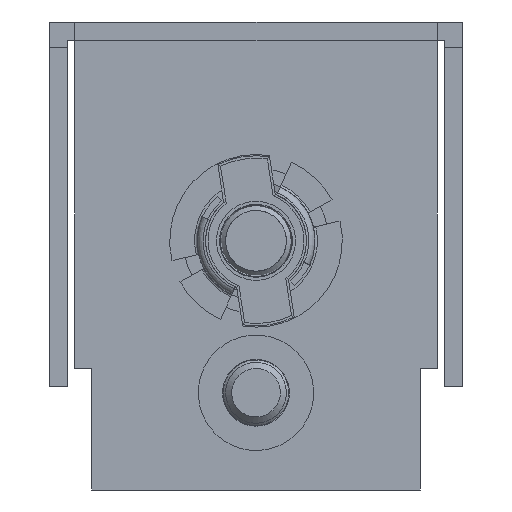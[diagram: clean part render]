
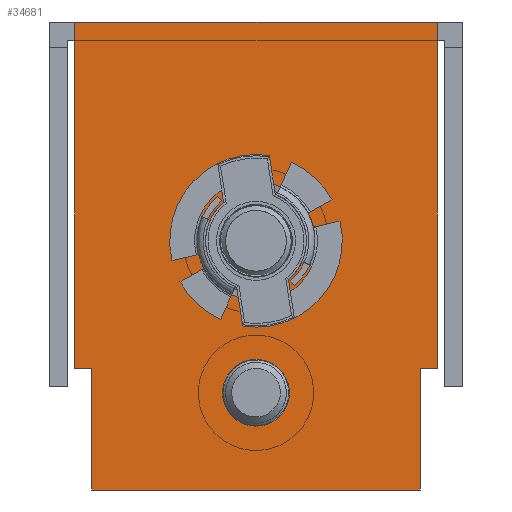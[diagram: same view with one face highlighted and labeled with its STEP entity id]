
A CAD part, left-side view. The second image highlights one B-rep face of the part: STEP entity #34681.
In plain terms, the highlighted planar face has unit normal (-1, 0, 0).
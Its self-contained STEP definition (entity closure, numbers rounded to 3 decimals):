
#2946 = VERTEX_POINT('',#2947);
#2947 = CARTESIAN_POINT('',(-249.,-14.9,1.5));
#3026 = VERTEX_POINT('',#3027);
#3027 = CARTESIAN_POINT('',(-249.,14.9,1.5));
#3033 = EDGE_CURVE('',#3026,#2946,#3034,.T.);
#3034 = LINE('',#3035,#3036);
#3035 = CARTESIAN_POINT('',(-249.,0.,1.5));
#3036 = VECTOR('',#3037,1.);
#3037 = DIRECTION('',(0.,-1.,0.));
#34569 = VERTEX_POINT('',#34570);
#34570 = CARTESIAN_POINT('',(-249.,14.9,-0.6));
#34576 = EDGE_CURVE('',#34569,#3026,#34577,.T.);
#34577 = LINE('',#34578,#34579);
#34578 = CARTESIAN_POINT('',(-249.,14.9,0.));
#34579 = VECTOR('',#34580,1.);
#34580 = DIRECTION('',(0.,-0.,1.));
#34594 = VERTEX_POINT('',#34595);
#34595 = CARTESIAN_POINT('',(-249.,-14.9,-0.6));
#34609 = EDGE_CURVE('',#34594,#2946,#34610,.T.);
#34610 = LINE('',#34611,#34612);
#34611 = CARTESIAN_POINT('',(-249.,-14.9,-0.6));
#34612 = VECTOR('',#34613,1.);
#34613 = DIRECTION('',(0.,0.,1.));
#34632 = VERTEX_POINT('',#34633);
#34633 = CARTESIAN_POINT('',(-249.,14.9,-27.));
#34639 = EDGE_CURVE('',#34569,#34632,#34640,.T.);
#34640 = LINE('',#34641,#34642);
#34641 = CARTESIAN_POINT('',(-249.,14.9,-37.));
#34642 = VECTOR('',#34643,1.);
#34643 = DIRECTION('',(0.,0.,-1.));
#34654 = EDGE_CURVE('',#34655,#34594,#34657,.T.);
#34655 = VERTEX_POINT('',#34656);
#34656 = CARTESIAN_POINT('',(-249.,-14.9,-27.));
#34657 = LINE('',#34658,#34659);
#34658 = CARTESIAN_POINT('',(-249.,-14.9,0.));
#34659 = VECTOR('',#34660,1.);
#34660 = DIRECTION('',(0.,0.,1.));
#34681 = ADVANCED_FACE('',(#34682,#34693,#34704),#34749,.F.);
#34682 = FACE_BOUND('',#34683,.T.);
#34683 = EDGE_LOOP('',(#34684));
#34684 = ORIENTED_EDGE('',*,*,#34685,.T.);
#34685 = EDGE_CURVE('',#34686,#34686,#34688,.T.);
#34686 = VERTEX_POINT('',#34687);
#34687 = CARTESIAN_POINT('',(-249.,0.,-19.75));
#34688 = CIRCLE('',#34689,3.25);
#34689 = AXIS2_PLACEMENT_3D('',#34690,#34691,#34692);
#34690 = CARTESIAN_POINT('',(-249.,0.,-16.5));
#34691 = DIRECTION('',(1.,0.,0.));
#34692 = DIRECTION('',(0.,0.,-1.));
#34693 = FACE_BOUND('',#34694,.T.);
#34694 = EDGE_LOOP('',(#34695));
#34695 = ORIENTED_EDGE('',*,*,#34696,.T.);
#34696 = EDGE_CURVE('',#34697,#34697,#34699,.T.);
#34697 = VERTEX_POINT('',#34698);
#34698 = CARTESIAN_POINT('',(-249.,0.,-31.75));
#34699 = CIRCLE('',#34700,2.75);
#34700 = AXIS2_PLACEMENT_3D('',#34701,#34702,#34703);
#34701 = CARTESIAN_POINT('',(-249.,0.,-29.));
#34702 = DIRECTION('',(1.,0.,0.));
#34703 = DIRECTION('',(0.,0.,-1.));
#34704 = FACE_BOUND('',#34705,.T.);
#34705 = EDGE_LOOP('',(#34706,#34716,#34722,#34723,#34724,#34725,#34726,
    #34727,#34735,#34743));
#34706 = ORIENTED_EDGE('',*,*,#34707,.T.);
#34707 = EDGE_CURVE('',#34708,#34710,#34712,.T.);
#34708 = VERTEX_POINT('',#34709);
#34709 = CARTESIAN_POINT('',(-249.,-13.5,-37.));
#34710 = VERTEX_POINT('',#34711);
#34711 = CARTESIAN_POINT('',(-249.,-13.5,-27.));
#34712 = LINE('',#34713,#34714);
#34713 = CARTESIAN_POINT('',(-249.,-13.5,-37.));
#34714 = VECTOR('',#34715,1.);
#34715 = DIRECTION('',(0.,0.,1.));
#34716 = ORIENTED_EDGE('',*,*,#34717,.T.);
#34717 = EDGE_CURVE('',#34710,#34655,#34718,.T.);
#34718 = LINE('',#34719,#34720);
#34719 = CARTESIAN_POINT('',(-249.,-14.9,-27.));
#34720 = VECTOR('',#34721,1.);
#34721 = DIRECTION('',(-0.,-1.,0.));
#34722 = ORIENTED_EDGE('',*,*,#34654,.T.);
#34723 = ORIENTED_EDGE('',*,*,#34609,.T.);
#34724 = ORIENTED_EDGE('',*,*,#3033,.F.);
#34725 = ORIENTED_EDGE('',*,*,#34576,.F.);
#34726 = ORIENTED_EDGE('',*,*,#34639,.T.);
#34727 = ORIENTED_EDGE('',*,*,#34728,.T.);
#34728 = EDGE_CURVE('',#34632,#34729,#34731,.T.);
#34729 = VERTEX_POINT('',#34730);
#34730 = CARTESIAN_POINT('',(-249.,13.5,-27.));
#34731 = LINE('',#34732,#34733);
#34732 = CARTESIAN_POINT('',(-249.,14.9,-27.));
#34733 = VECTOR('',#34734,1.);
#34734 = DIRECTION('',(0.,-1.,0.));
#34735 = ORIENTED_EDGE('',*,*,#34736,.T.);
#34736 = EDGE_CURVE('',#34729,#34737,#34739,.T.);
#34737 = VERTEX_POINT('',#34738);
#34738 = CARTESIAN_POINT('',(-249.,13.5,-37.));
#34739 = LINE('',#34740,#34741);
#34740 = CARTESIAN_POINT('',(-249.,13.5,-37.));
#34741 = VECTOR('',#34742,1.);
#34742 = DIRECTION('',(0.,0.,-1.));
#34743 = ORIENTED_EDGE('',*,*,#34744,.T.);
#34744 = EDGE_CURVE('',#34737,#34708,#34745,.T.);
#34745 = LINE('',#34746,#34747);
#34746 = CARTESIAN_POINT('',(-249.,-14.9,-37.));
#34747 = VECTOR('',#34748,1.);
#34748 = DIRECTION('',(0.,-1.,-0.));
#34749 = PLANE('',#34750);
#34750 = AXIS2_PLACEMENT_3D('',#34751,#34752,#34753);
#34751 = CARTESIAN_POINT('',(-249.,0.,0.
    ));
#34752 = DIRECTION('',(1.,0.,0.));
#34753 = DIRECTION('',(0.,0.,-1.));
